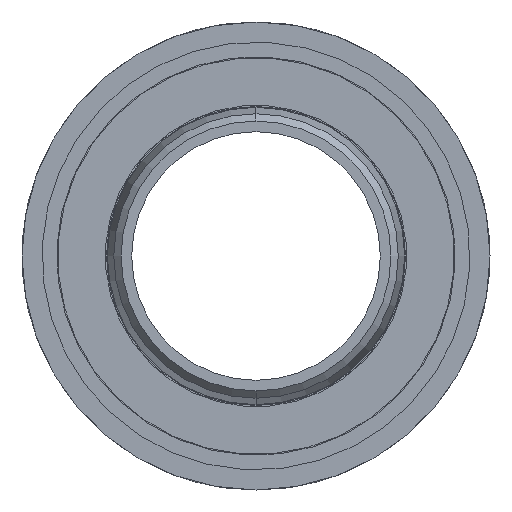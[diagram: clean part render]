
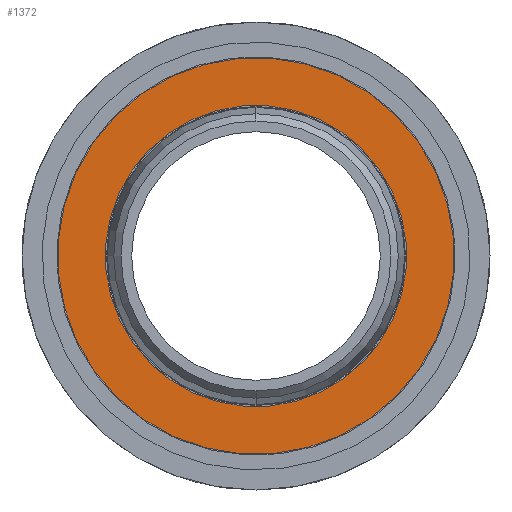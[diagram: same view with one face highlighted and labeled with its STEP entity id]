
A CAD part, left-side view. The second image highlights one B-rep face of the part: STEP entity #1372.
In plain terms, the highlighted planar face has unit normal (-1, 0, 0).
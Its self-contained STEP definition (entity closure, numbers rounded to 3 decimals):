
#56 = CARTESIAN_POINT ( 'NONE',  ( -75., 7.101, 26.179 ) ) ;
#72 = VERTEX_POINT ( 'NONE', #56 ) ;
#92 = PLANE ( 'NONE',  #1324 ) ;
#99 = CARTESIAN_POINT ( 'NONE',  ( -75., 0., 0. ) ) ;
#100 = DIRECTION ( 'NONE',  ( 1., 0., 0. ) ) ;
#101 = DIRECTION ( 'NONE',  ( 0., -0.262, -0.965 ) ) ;
#420 = AXIS2_PLACEMENT_3D ( 'NONE', #522, #523, #524 ) ;
#422 = AXIS2_PLACEMENT_3D ( 'NONE', #532, #533, #534 ) ;
#425 = AXIS2_PLACEMENT_3D ( 'NONE', #543, #544, #545 ) ;
#426 = AXIS2_PLACEMENT_3D ( 'NONE', #546, #547, #548 ) ;
#522 = CARTESIAN_POINT ( 'NONE',  ( -75., 0., 0. ) ) ;
#523 = DIRECTION ( 'NONE',  ( 1., 0., 0. ) ) ;
#524 = DIRECTION ( 'NONE',  ( 0., -0.262, -0.965 ) ) ;
#532 = CARTESIAN_POINT ( 'NONE',  ( -75., 0., 0. ) ) ;
#533 = DIRECTION ( 'NONE',  ( 1., 0., 0. ) ) ;
#534 = DIRECTION ( 'NONE',  ( 0., -0.262, -0.965 ) ) ;
#543 = CARTESIAN_POINT ( 'NONE',  ( -75., 0., 0. ) ) ;
#544 = DIRECTION ( 'NONE',  ( 1., 0., 0. ) ) ;
#545 = DIRECTION ( 'NONE',  ( 0., -0.262, -0.965 ) ) ;
#546 = CARTESIAN_POINT ( 'NONE',  ( -75., 0., 0. ) ) ;
#547 = DIRECTION ( 'NONE',  ( 1., 0., 0. ) ) ;
#548 = DIRECTION ( 'NONE',  ( 0., -0.262, -0.965 ) ) ;
#755 = FACE_OUTER_BOUND ( 'NONE', #925, .T. ) ;
#759 = FACE_BOUND ( 'NONE', #929, .T. ) ;
#925 = EDGE_LOOP ( 'NONE', ( #1012, #1013 ) ) ;
#929 = EDGE_LOOP ( 'NONE', ( #1014, #1015 ) ) ;
#1012 = ORIENTED_EDGE ( 'NONE', *, *, #2273, .F. ) ;
#1013 = ORIENTED_EDGE ( 'NONE', *, *, #2269, .F. ) ;
#1014 = ORIENTED_EDGE ( 'NONE', *, *, #2265, .T. ) ;
#1015 = ORIENTED_EDGE ( 'NONE', *, *, #2274, .T. ) ;
#1324 = AXIS2_PLACEMENT_3D ( 'NONE', #99, #100, #101 ) ;
#1372 = ADVANCED_FACE ( 'NONE', ( #755, #759 ), #92, .F. ) ;
#1866 = CARTESIAN_POINT ( 'NONE',  ( -75., 5.392, 19.882 ) ) ;
#1873 = CARTESIAN_POINT ( 'NONE',  ( -75., -7.101, -26.179 ) ) ;
#1876 = CARTESIAN_POINT ( 'NONE',  ( -75., -5.392, -19.882 ) ) ;
#1960 = CIRCLE ( 'NONE', #420, 20.6 ) ;
#1964 = CIRCLE ( 'NONE', #422, 27.125 ) ;
#1971 = CIRCLE ( 'NONE', #425, 27.125 ) ;
#1972 = CIRCLE ( 'NONE', #426, 20.6 ) ;
#2265 = EDGE_CURVE ( 'NONE', #2371, #2374, #1960, .T. ) ;
#2269 = EDGE_CURVE ( 'NONE', #2370, #72, #1964, .T. ) ;
#2273 = EDGE_CURVE ( 'NONE', #72, #2370, #1971, .T. ) ;
#2274 = EDGE_CURVE ( 'NONE', #2374, #2371, #1972, .T. ) ;
#2370 = VERTEX_POINT ( 'NONE', #1873 ) ;
#2371 = VERTEX_POINT ( 'NONE', #1866 ) ;
#2374 = VERTEX_POINT ( 'NONE', #1876 ) ;
